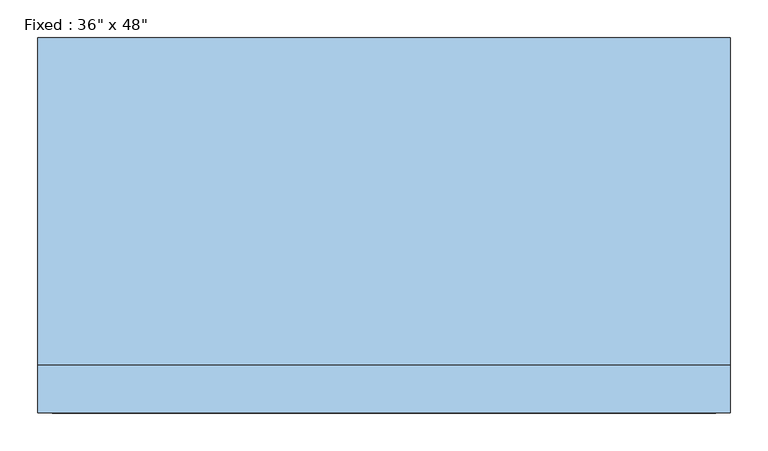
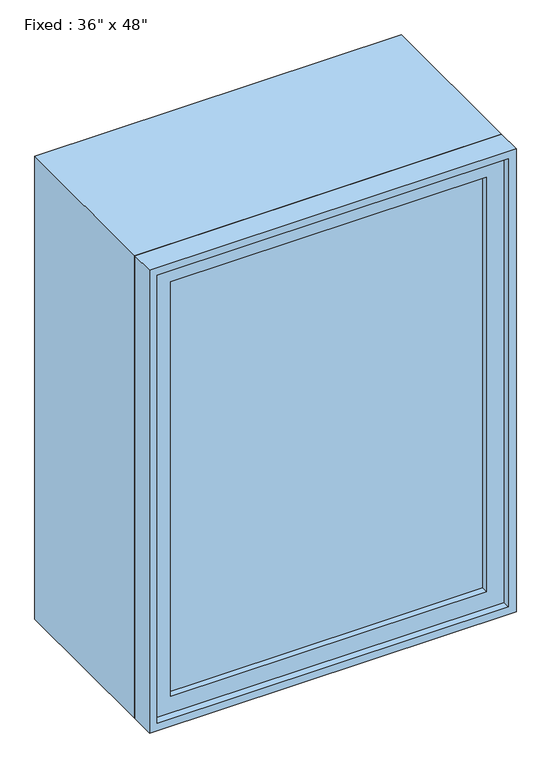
"""IFC4 building model written with IfcOpenShell, lengths in millimetres: window geometry."""

from ifc_helpers import new_model, si_unit, frame, origin, place, context, project, spatial, polyline, outline, extrude, source, transform, mapped, element, save


def window_eeedf783(model_context):
    return source(origin(), model_context, "Body", "SweptSolid", [
        extrude(outline(polyline([(355.6, -200.025), (355.6, -212.725), (-431.8, -212.725), (-431.8, -200.025), (355.6, -200.025)])), frame((0.0, 0.0, 977.9), z_axis=(0.0, 0.0, 1.0), x_axis=(1.0, 0.0, 0.0)), (0.0, 0.0, 1.0), 1092.2),
        extrude(outline(polyline([(2114.55, -476.25), (933.45, -476.25), (933.45, 400.05), (2114.55, 400.05), (2114.55, -476.25)]), holes=[polyline([(2070.1, -431.8), (2070.1, 355.6), (977.9, 355.6), (977.9, -431.8), (2070.1, -431.8)])]), frame((0.0, -228.6, 0.0), z_axis=(0.0, 1.0, 0.0), x_axis=(0.0, 0.0, 1.0)), (0.0, 0.0, 1.0), 44.45),
        extrude(outline(polyline([(2133.6, -495.3), (914.4, -495.3), (914.4, 419.1), (2133.6, 419.1), (2133.6, -495.3)]), holes=[polyline([(2101.85, -463.55), (2101.85, 387.35), (946.15, 387.35), (946.15, -463.55), (2101.85, -463.55)])]), frame((0.0, -184.15, 0.0), z_axis=(0.0, 1.0, 0.0), x_axis=(0.0, 0.0, 1.0)), (0.0, 0.0, 1.0), 431.8),
        extrude(outline(polyline([(2133.6, 419.1), (2133.6, -495.3), (914.4, -495.3), (914.4, 419.1), (2133.6, 419.1)]), holes=[polyline([(2114.55, 400.05), (933.45, 400.05), (933.45, -476.25), (2114.55, -476.25), (2114.55, 400.05)])]), frame((0.0, -247.65, 0.0), z_axis=(0.0, 1.0, 0.0), x_axis=(0.0, 0.0, 1.0)), (0.0, 0.0, 1.0), 63.5),
    ])


if __name__ == "__main__":
    model = new_model("IFC4")
    model_context = context("Model", 3, world=origin())
    ifc_project = project(units=[si_unit("LENGTHUNIT", "METRE", prefix="MILLI")], contexts=[model_context])
    site = spatial("IfcSite", under=ifc_project)
    building = spatial("IfcBuilding", under=site)
    placement = place(None, origin())
    window_shape = window_eeedf783(model_context)
    element("IfcWindow", 1, ObjectType="Fixed : 36\" x 48\"", at=placement, inside=building, context=model_context, shape_type="MappedRepresentation", body=[
        mapped(window_shape, transform((0.0, 0.0, 0.0), x_axis=(1.0, 0.0, 0.0), y_axis=(0.0, 1.0, 0.0), z_axis=(0.0, 0.0, 1.0))),
    ])
    save(model, "model.ifc")
